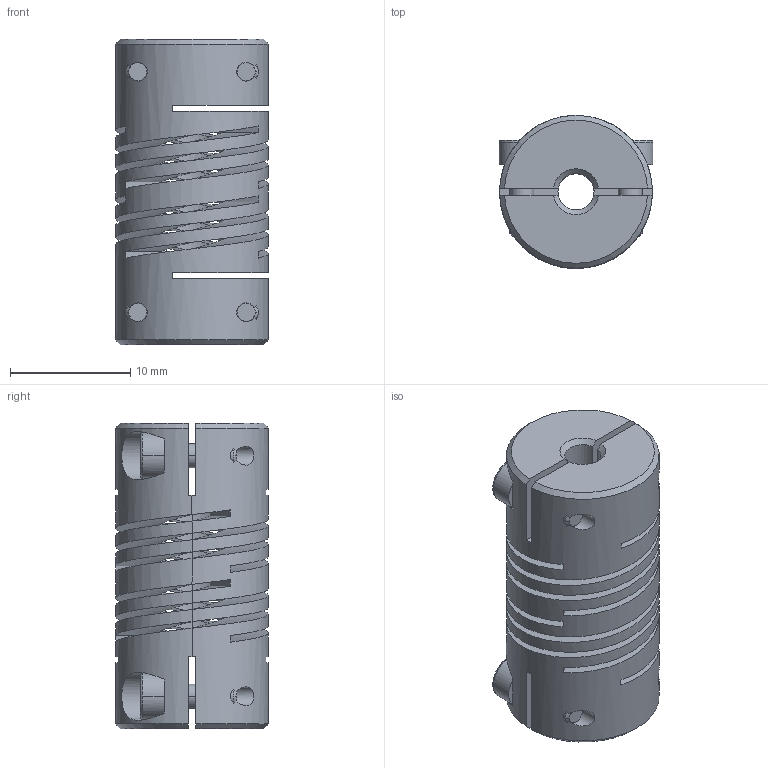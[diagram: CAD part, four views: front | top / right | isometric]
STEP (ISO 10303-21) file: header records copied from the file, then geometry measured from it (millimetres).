
FILE_DESCRIPTION((''),'2;1');
FILE_NAME('723_13','2026-02-24T',('SYSTEM'),(''),'PRO/ENGINEER BY PARAMETRIC TECHNOLOGY CORPORATION, 2016360','PRO/ENGINEER BY PARAMETRIC TECHNOLOGY CORPORATION, 2016360','');
FILE_SCHEMA(('AUTOMOTIVE_DESIGN { 1 0 10303 214 1 1 1 1 }'));
Length unit declared in the file: inch
Products named in the file (1): 723_13
Bounding box: 12.8 x 12.7 x 25.4 mm (x, y, z)
Volume: 2209.1 mm3; surface area: 3389.7 mm2
Topology: 1 solids, 1 shells, 203 faces, 593 edges, 385 vertices
Faces by surface type: plane 77, cylinder 58, torus 32, cone 24, bspline 12
Entity records: 11577 total; most frequent: CARTESIAN_POINT 4371, ORIENTED_EDGE 1170, DIRECTION 1042, PRESENTATION_STYLE_ASSIGNMENT 586, STYLED_ITEM 586, CURVE_STYLE 585, EDGE_CURVE 585, AXIS2_PLACEMENT_3D 406
